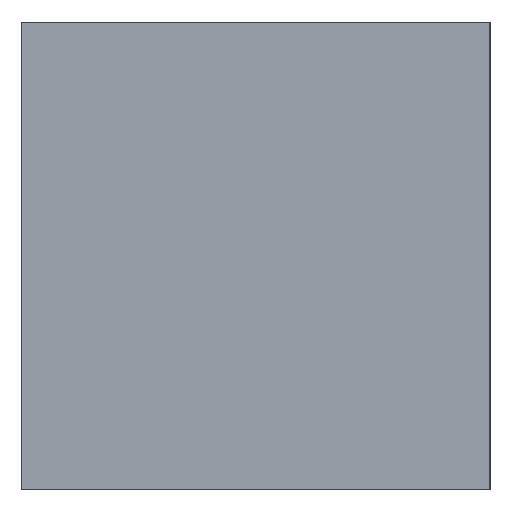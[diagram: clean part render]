
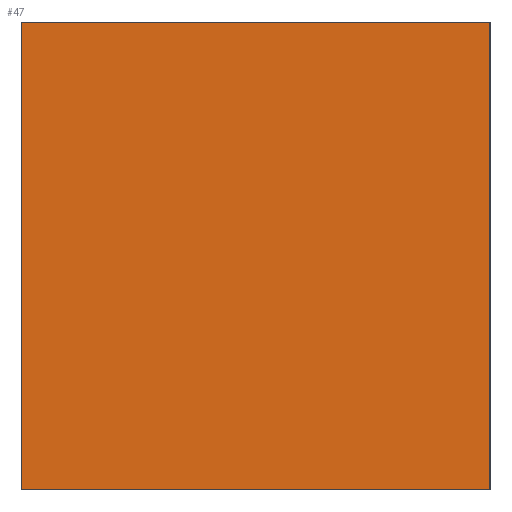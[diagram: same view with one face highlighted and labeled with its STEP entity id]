
A CAD part, left-side view. The second image highlights one B-rep face of the part: STEP entity #47.
In plain terms, the highlighted planar face has unit normal (-1, 0, 0).
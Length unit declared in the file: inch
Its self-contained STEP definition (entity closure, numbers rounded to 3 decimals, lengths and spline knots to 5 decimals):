
#18 = EDGE_CURVE ( 'NONE', #457, #70, #33, .T. ) ;
#25 = ORIENTED_EDGE ( 'NONE', *, *, #116, .T. ) ;
#27 = CARTESIAN_POINT ( 'NONE',  ( -3.00379, 0., -1.36194 ) ) ;
#33 = LINE ( 'NONE', #151, #397 ) ;
#43 = VECTOR ( 'NONE', #277, 39.37008 ) ;
#47 = ADVANCED_FACE ( 'NONE', ( #271 ), #109, .F. ) ;
#48 = CARTESIAN_POINT ( 'NONE',  ( -3.00379, 0., 2.13806 ) ) ;
#51 = VERTEX_POINT ( 'NONE', #123 ) ;
#54 = VECTOR ( 'NONE', #289, 39.37008 ) ;
#70 = VERTEX_POINT ( 'NONE', #48 ) ;
#79 = CARTESIAN_POINT ( 'NONE',  ( -3.00379, 0., -1.36194 ) ) ;
#109 = PLANE ( 'NONE',  #303 ) ;
#116 = EDGE_CURVE ( 'NONE', #51, #186, #284, .T. ) ;
#123 = CARTESIAN_POINT ( 'NONE',  ( -3.00379, 3.5, -1.36194 ) ) ;
#151 = CARTESIAN_POINT ( 'NONE',  ( -3.00379, 3.5, 2.13806 ) ) ;
#167 = DIRECTION ( 'NONE',  ( 1., 0., 0. ) ) ;
#168 = CARTESIAN_POINT ( 'NONE',  ( -3.00379, 3.5, -1.36194 ) ) ;
#173 = LINE ( 'NONE', #168, #54 ) ;
#183 = ORIENTED_EDGE ( 'NONE', *, *, #475, .F. ) ;
#186 = VERTEX_POINT ( 'NONE', #79 ) ;
#224 = ORIENTED_EDGE ( 'NONE', *, *, #443, .T. ) ;
#228 = EDGE_LOOP ( 'NONE', ( #224, #383, #183, #25 ) ) ;
#232 = DIRECTION ( 'NONE',  ( 0., -1., 0. ) ) ;
#249 = VECTOR ( 'NONE', #380, 39.37008 ) ;
#258 = CARTESIAN_POINT ( 'NONE',  ( -3.00379, 3.5, 2.13806 ) ) ;
#271 = FACE_OUTER_BOUND ( 'NONE', #228, .T. ) ;
#277 = DIRECTION ( 'NONE',  ( 0., -1., 0. ) ) ;
#284 = LINE ( 'NONE', #329, #43 ) ;
#289 = DIRECTION ( 'NONE',  ( 0., 0., 1. ) ) ;
#303 = AXIS2_PLACEMENT_3D ( 'NONE', #488, #167, #330 ) ;
#329 = CARTESIAN_POINT ( 'NONE',  ( -3.00379, 3.5, -1.36194 ) ) ;
#330 = DIRECTION ( 'NONE',  ( 0., 0., -1. ) ) ;
#350 = LINE ( 'NONE', #27, #249 ) ;
#380 = DIRECTION ( 'NONE',  ( 0., 0., 1. ) ) ;
#383 = ORIENTED_EDGE ( 'NONE', *, *, #18, .F. ) ;
#397 = VECTOR ( 'NONE', #232, 39.37008 ) ;
#443 = EDGE_CURVE ( 'NONE', #186, #70, #350, .T. ) ;
#457 = VERTEX_POINT ( 'NONE', #258 ) ;
#475 = EDGE_CURVE ( 'NONE', #51, #457, #173, .T. ) ;
#488 = CARTESIAN_POINT ( 'NONE',  ( -3.00379, 3.5, -1.36194 ) ) ;
